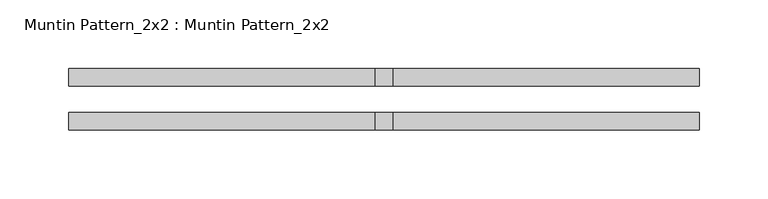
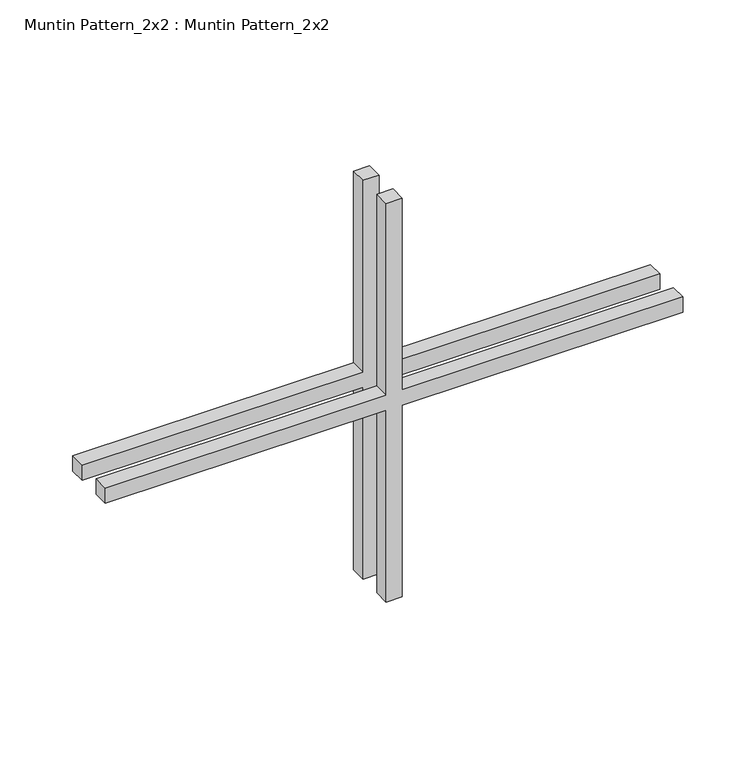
"""IFC4 building model written with IfcOpenShell, lengths in millimetres: proxy geometry, Muntin Pattern_2x2 : Muntin Pattern_2x2."""

from ifc_helpers import new_model, si_unit, frame, origin, place, context, project, spatial, polyline, outline, extrude, source, transform, mapped, element, save


def muntin_pattern_2x2_muntin_pattern_2x2_3032a0ac(model_context):
    return source(origin(), model_context, "Body", "SweptSolid", [
        extrude(outline(polyline([(173.0375, -6.35), (173.0375, -228.6), (160.3375, -228.6), (160.3375, -6.35), (0.0, -6.35), (0.0, 6.35), (160.3375, 6.35), (160.3375, 228.6), (173.0375, 228.6), (173.0375, 6.35), (333.375, 6.35), (333.375, -6.35), (173.0375, -6.35)])), frame((0.0, 9.525, 0.0), z_axis=(0.0, 1.0, 0.0), x_axis=(0.0, 0.0, 1.0)), (0.0, 0.0, 1.0), 12.7),
        extrude(outline(polyline([(173.0375, -6.35), (173.0375, -228.6), (160.3375, -228.6), (160.3375, -6.35), (0.0, -6.35), (0.0, 6.35), (160.3375, 6.35), (160.3375, 228.6), (173.0375, 228.6), (173.0375, 6.35), (333.375, 6.35), (333.375, -6.35), (173.0375, -6.35)])), frame((0.0, -22.225, 0.0), z_axis=(0.0, 1.0, 0.0), x_axis=(0.0, 0.0, 1.0)), (0.0, 0.0, 1.0), 12.7),
    ])


if __name__ == "__main__":
    model = new_model("IFC4")
    model_context = context("Model", 3, world=origin())
    ifc_project = project(units=[si_unit("LENGTHUNIT", "METRE", prefix="MILLI")], contexts=[model_context])
    site = spatial("IfcSite", under=ifc_project)
    building = spatial("IfcBuilding", under=site)
    placement = place(None, origin())
    muntin_pattern_2x2_muntin_pattern_2x2_shape = muntin_pattern_2x2_muntin_pattern_2x2_3032a0ac(model_context)
    element("IfcBuildingElementProxy", 1, Name="Muntin Pattern_2x2 : Muntin Pattern_2x2", ObjectType="Muntin Pattern_2x2 : Muntin Pattern_2x2", at=placement, inside=building, context=model_context, shape_type="MappedRepresentation", body=[
        mapped(muntin_pattern_2x2_muntin_pattern_2x2_shape, transform((0.0, 0.0, 0.0), x_axis=(1.0, 0.0, 0.0), y_axis=(0.0, 1.0, 0.0), z_axis=(0.0, 0.0, 1.0))),
    ])
    save(model, "model.ifc")
